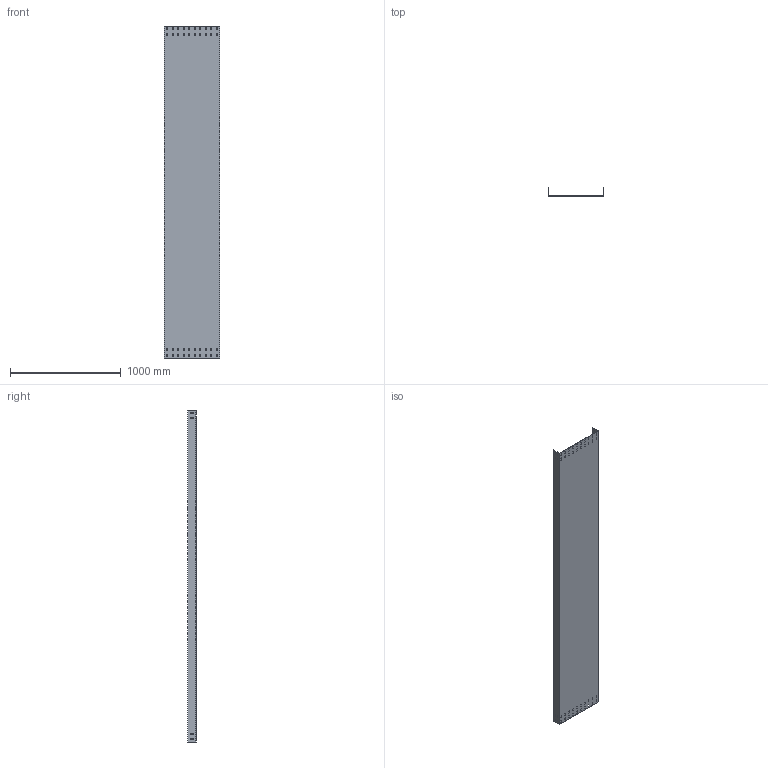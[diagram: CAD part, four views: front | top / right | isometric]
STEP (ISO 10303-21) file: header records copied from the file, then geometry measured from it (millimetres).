
FILE_DESCRIPTION (( 'STEP AP214' ), '1' );
FILE_NAME ('CF_507.step', '2025-07-16T09:06:17', ( '' ), ( '' ), 'SwSTEP 2.0', 'SolidWorks 2023', '' );
FILE_SCHEMA (( 'AUTOMOTIVE_DESIGN' ));
Length unit declared in the file: millimetre
Products named in the file (1): CF_507
Bounding box: 500 x 75 x 3000 mm (x, y, z)
Volume: 2901420 mm3; surface area: 3883557 mm2
Topology: 1 solids, 1 shells, 234 faces, 696 edges, 464 vertices
Faces by surface type: plane 234
Entity records: 7927 total; most frequent: CARTESIAN_POINT 1395, ORIENTED_EDGE 1392, DIRECTION 1166, LINE 696, EDGE_CURVE 696, VECTOR 696, VERTEX_POINT 464, EDGE_LOOP 346
